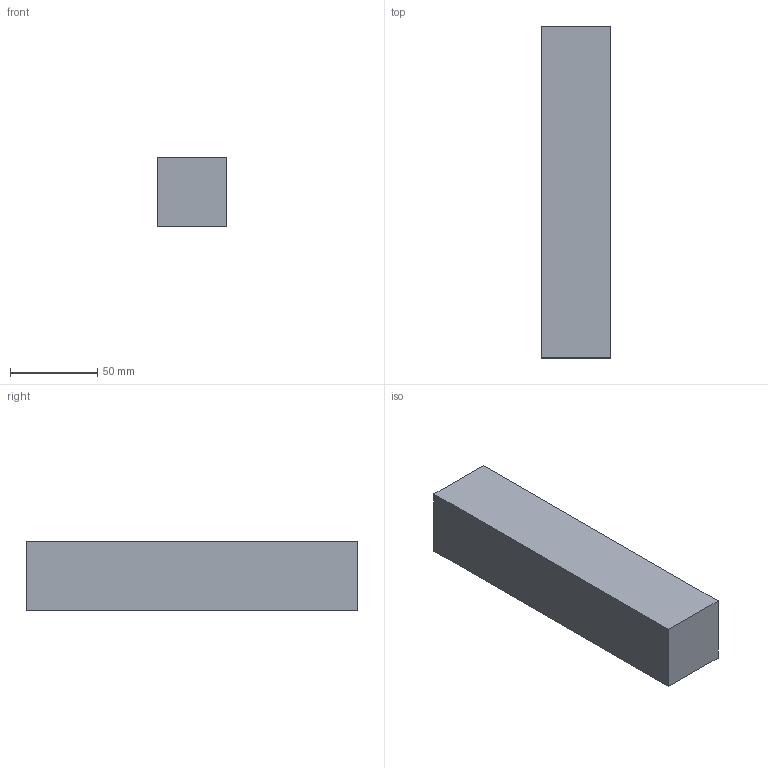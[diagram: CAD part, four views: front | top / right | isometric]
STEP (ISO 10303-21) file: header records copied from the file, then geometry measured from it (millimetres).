
FILE_DESCRIPTION(/* description */ (''),/* implementation_level */ '2;1');
FILE_NAME(/* name */ '3.frame-top#3.6#HFS5-4040-190',/* time_stamp */ '2014-12-01T20:12:21+01:00',/* author */ (''),/* organization */ (''),/* preprocessor_version */ 'ST-DEVELOPER v14',/* originating_system */ '',/* authorisation */ '');
FILE_SCHEMA (('AUTOMOTIVE_DESIGN'));
Length unit declared in the file: millimetre
Products named in the file (1): Document
Bounding box: 40 x 190 x 40 mm (x, y, z)
Volume: 304000 mm3; surface area: 33600 mm2
Topology: 1 solids, 1 shells, 6 faces, 12 edges, 8 vertices
Faces by surface type: plane 6
Entity records: 298 total; most frequent: CARTESIAN_POINT 88, B_SPLINE_CURVE_WITH_KNOTS 36, ORIENTED_EDGE 24, PCURVE 24, DEFINITIONAL_REPRESENTATION 24, SURFACE_CURVE 12, EDGE_CURVE 12, DIRECTION 10
